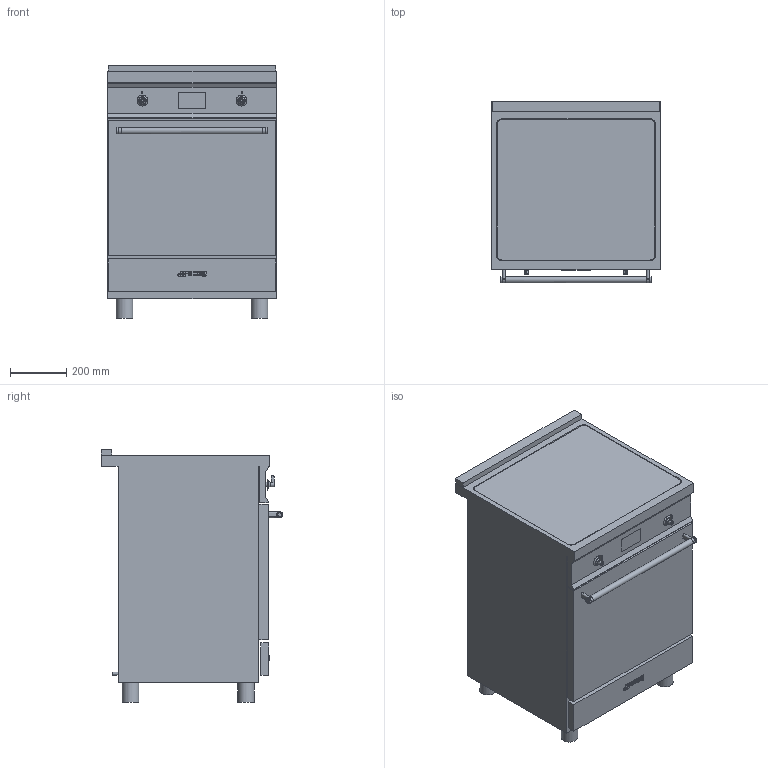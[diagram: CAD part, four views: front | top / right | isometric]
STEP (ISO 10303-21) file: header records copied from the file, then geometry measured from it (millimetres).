
FILE_DESCRIPTION(/* description */ ('Unknown'),/* implementation_level */ '2;1');
FILE_NAME(/* name */ 'C6IMXT2',/* time_stamp */ '2025-04-28T16:40:11+02:00',/* author */ ('Unknown'),/* organization */ ('Unknown'),/* preprocessor_version */ 'ST-DEVELOPER v16.7',/* originating_system */ 'DEX',/* authorisation */ $);
FILE_SCHEMA (('AUTOMOTIVE_DESIGN {1 0 10303 214 3 1 1}'));
Length unit declared in the file: millimetre
Products named in the file (1): C6IMXT2
Bounding box: 598 x 644.56 x 898.4 mm (x, y, z)
Volume: 258225765.7 mm3; surface area: 4187408.7 mm2
Topology: 4 solids, 4 shells, 254 faces, 648 edges, 435 vertices
Faces by surface type: plane 121, cylinder 111, bspline 14, cone 4, torus 4
Full cylindrical faces by diameter (mm): 8 x2, 8.5 x2, 8.828 x5, 8.863 x1, 10 x1, 13 x2, 13.5 x2, 14.995 x2, 22 x3, 59 x4
Entity records: 10095 total; most frequent: CARTESIAN_POINT 2234, DIRECTION 1301, ORIENTED_EDGE 1218, EDGE_CURVE 609, AXIS2_PLACEMENT_3D 492, VERTEX_POINT 421, LINE 317, VECTOR 317
